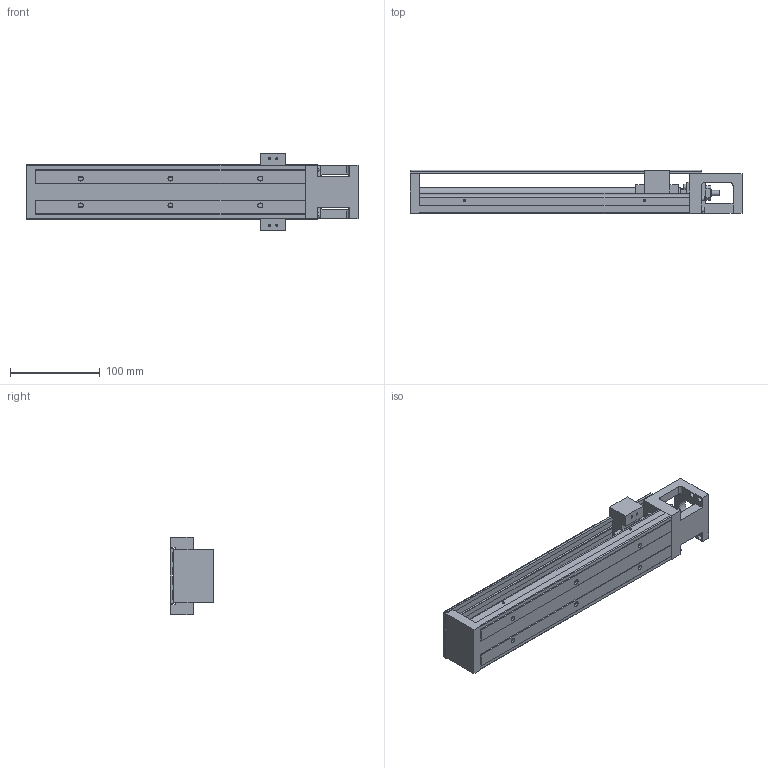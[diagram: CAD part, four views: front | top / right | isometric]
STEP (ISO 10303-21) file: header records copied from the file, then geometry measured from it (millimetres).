
FILE_DESCRIPTION( ( '' ), '1' );
FILE_NAME( '//partserver001.servicenet/client_exchange/iodir/jobs/output/wkb20110898_no2/STEP/kk6005p_300s1_f0c_2_03.stp', '2009-11-12T11:15:18', ( '' ), ( '' ), ' ', ' ', ' ' );
FILE_SCHEMA( ( 'CONFIG_CONTROL_DESIGN' ) );
Length unit declared in the file: millimetre
Products named in the file (5): 1; 2; 3; 4; 5
Bounding box: 370 x 48.5 x 86 mm (x, y, z)
Volume: 478309.5 mm3; surface area: 167151.7 mm2
Topology: 5 solids, 5 shells, 512 faces, 1300 edges, 816 vertices
Faces by surface type: plane 234, cylinder 170, cone 100, torus 8
Entity records: 15468 total; most frequent: DIRECTION 2738, CARTESIAN_POINT 2627, ORIENTED_EDGE 2520, EDGE_CURVE 1260, AXIS2_PLACEMENT_3D 963, VERTEX_POINT 816, LINE 812, VECTOR 812
